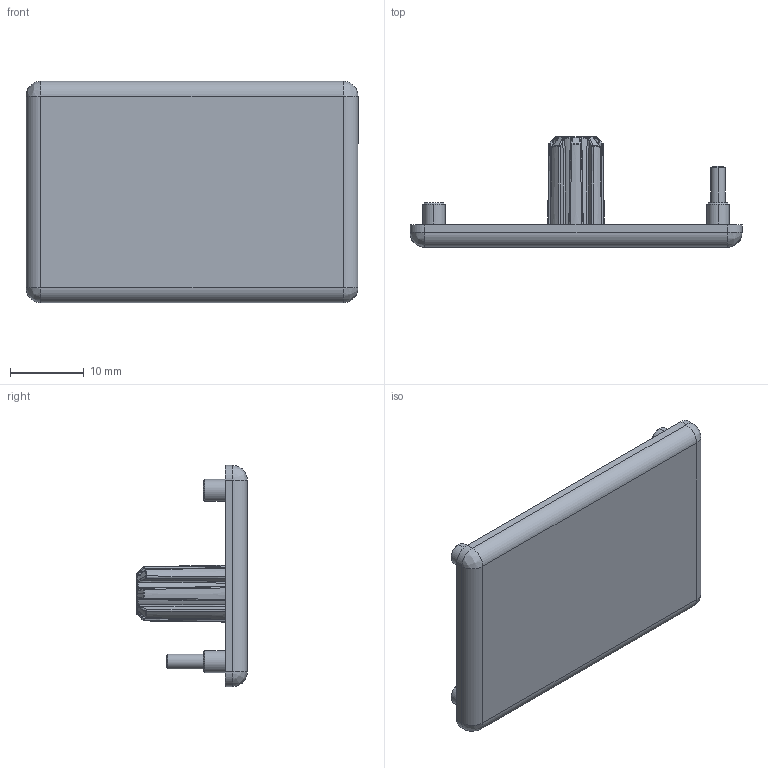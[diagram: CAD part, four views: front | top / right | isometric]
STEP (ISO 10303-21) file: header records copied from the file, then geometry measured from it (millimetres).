
FILE_DESCRIPTION (( 'STEP AP203' ), '1' );
FILE_NAME ('401013_Abdeckkappe 30x45 Nut 8 grau.step', '2022-05-13T07:01:52', ( '' ), ( '' ), 'SwSTEP 2.0', 'SolidWorks 2021', '' );
FILE_SCHEMA (( 'CONFIG_CONTROL_DESIGN' ));
Length unit declared in the file: millimetre
Products named in the file (1): 401013_Abdeckkappe 30x45 Nut 8 grau
Bounding box: 45 x 15 x 30 mm (x, y, z)
Volume: 3830.7 mm3; surface area: 3765.4 mm2
Topology: 1 solids, 1 shells, 297 faces, 647 edges, 340 vertices
Faces by surface type: bspline 170, cone 45, cylinder 44, plane 38
Entity records: 11503 total; most frequent: CARTESIAN_POINT 6157, ORIENTED_EDGE 1254, DIRECTION 891, EDGE_CURVE 627, AXIS2_PLACEMENT_3D 381, VERTEX_POINT 340, EDGE_LOOP 305, ADVANCED_FACE 297
